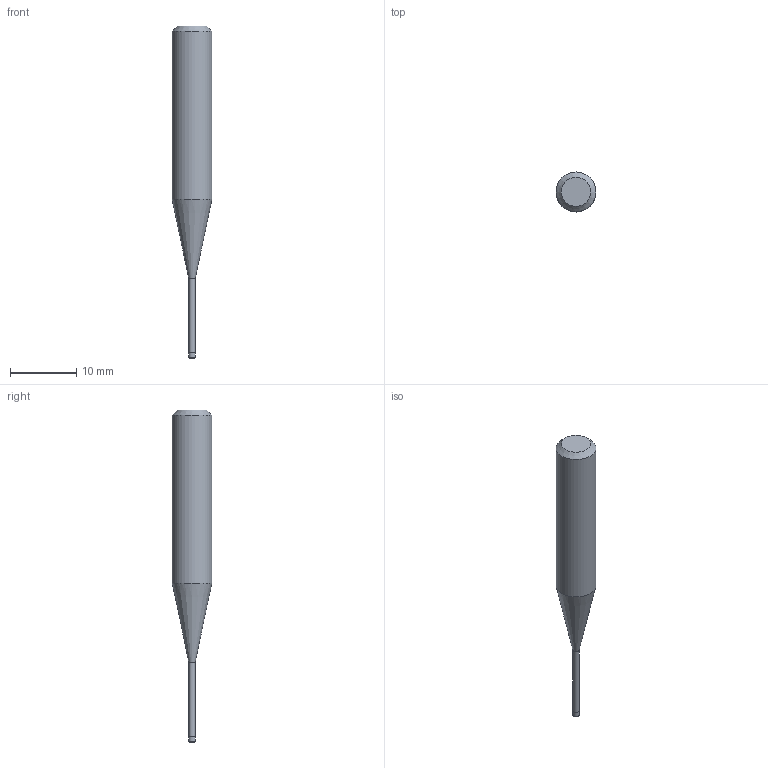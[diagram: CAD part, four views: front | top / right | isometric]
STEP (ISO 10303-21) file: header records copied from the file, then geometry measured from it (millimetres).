
FILE_DESCRIPTION((''),'2;1');
FILE_NAME('C:\Users\nsx150\AppData\Local\Temp\Mastercam 2021\17T8Q8S9EB\TEMP.step','2021-04-21T14:33:12',(''),(''),'STEP Write','Mastercam 2021 ... CNC Software, Inc.','');
FILE_SCHEMA(('AUTOMOTIVE_DESIGN'));
Length unit declared in the file: millimetre
Products named in the file (1): None
Bounding box: 6 x 6 x 50 mm (x, y, z)
Volume: 874.1 mm3; surface area: 681.7 mm2
Topology: 2 solids, 2 shells, 10 faces, 14 edges, 8 vertices
Faces by surface type: plane 4, cylinder 3, cone 2, torus 1
Full cylindrical faces by diameter (mm): 0.95 x1, 1 x1, 6 x1
Entity records: 232 total; most frequent: DIRECTION 40, CARTESIAN_POINT 28, AXIS2_PLACEMENT_3D 20, ORIENTED_EDGE 16, EDGE_LOOP 16, STYLED_ITEM 13, ADVANCED_FACE 10, FACE_BOUND 10
